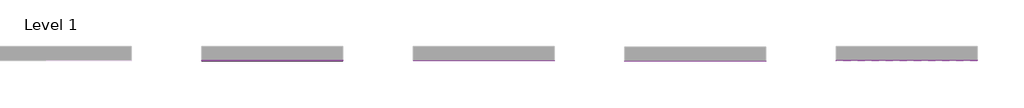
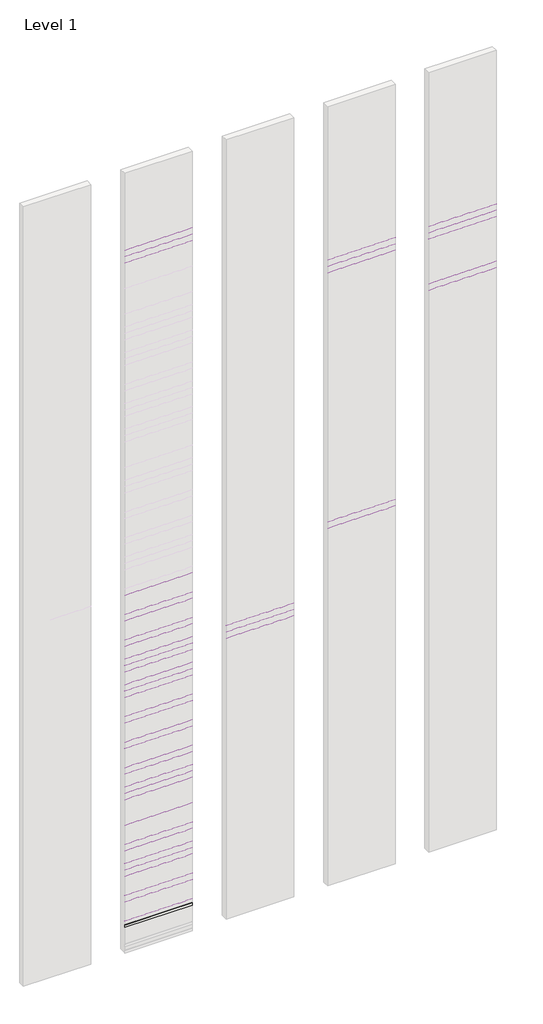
# One storey, part 3 of 3: 46 coverings.
"""IFC4 building model written with IfcOpenShell, lengths in millimetres."""

import ifcopenshell
import ifcopenshell.guid

model = None  # the IFC model being written
_history = None  # IfcOwnerHistory: only IFC2X3 demands one
_inside = {}  # id of a spatial element -> (the spatial element, [elements in it])
_under = {}  # id of a project, library or spatial element -> (it, [spatial elements below it])
_declared = {}  # id of a project -> (the project, [libraries it declares])
_typed = {}  # id of a type object -> (the type object, [elements of that type])
_made_of = {}  # id of a material, layer set ... -> (it, [elements and type objects made of it])


def new_model(schema):
    """Start an empty IFC model of exactly this schema.

    Asked for "IFC4X3", IfcOpenShell would pick the latest addendum, in which some entities
    have other attributes; the version numbers below select the first issue.
    IFC2X3 requires an IfcOwnerHistory on every rooted entity: one is made here for all.
    """
    global model, _history
    if schema == "IFC4X3":
        model = ifcopenshell.file(schema_version=(4, 3, 0, 0))
    else:
        model = ifcopenshell.file(schema=schema)
    _inside.clear()
    _under.clear()
    _declared.clear()
    _typed.clear()
    _made_of.clear()
    _history = None
    if model.schema == "IFC2X3":
        org = make("IfcOrganization", Name="unknown")
        user = make(
            "IfcPersonAndOrganization",
            ThePerson=make("IfcPerson", FamilyName="unknown"),
            TheOrganization=org,
        )
        app = make(
            "IfcApplication",
            ApplicationDeveloper=org,
            Version="unknown",
            ApplicationFullName="unknown",
            ApplicationIdentifier="unknown",
        )
        _history = make(
            "IfcOwnerHistory",
            OwningUser=user,
            OwningApplication=app,
            ChangeAction="ADDED",
            CreationDate=0,
        )
    return model


def make(cls, **values):
    """One entity of the class cls with the attributes given. An attribute that is None is left unset."""
    return model.create_entity(
        cls, **{name: value for name, value in values.items() if value is not None}
    )


def rooted(cls, **values):
    """An entity with a GlobalId (a new one), such as an element, a storey or a relation."""
    return make(cls, GlobalId=ifcopenshell.guid.new(), OwnerHistory=_history, **values)


def si_unit(unit_type, name, prefix=None):
    """IfcSIUnit, for example si_unit("LENGTHUNIT", "METRE", prefix="MILLI")."""
    return make("IfcSIUnit", UnitType=unit_type, Prefix=prefix, Name=name)


def assignment(units):
    """IfcUnitAssignment: the units of a project."""
    return None if units is None else make("IfcUnitAssignment", Units=units)


def point(xyz):
    """IfcCartesianPoint."""
    return None if xyz is None else make("IfcCartesianPoint", Coordinates=xyz)


def direction(xyz):
    """IfcDirection."""
    return None if xyz is None else make("IfcDirection", DirectionRatios=xyz)


def frame(location, z_axis=None, x_axis=None):
    """IfcAxis2Placement3D, a coordinate frame: its origin and axes. An axis left out is left unset."""
    return make(
        "IfcAxis2Placement3D",
        Location=point(location),
        Axis=direction(z_axis),
        RefDirection=direction(x_axis),
    )


def frame_2d(location, x_axis=None):
    """IfcAxis2Placement2D, a coordinate frame in the plane: its origin and x axis."""
    return make(
        "IfcAxis2Placement2D", Location=point(location), RefDirection=direction(x_axis)
    )


def origin():
    """The frame at (0, 0, 0) with its axes left unset."""
    return frame((0.0, 0.0, 0.0))


def place(relative_to, where):
    """IfcLocalPlacement: puts the frame where relative to a parent placement (None: the world)."""
    return make(
        "IfcLocalPlacement", PlacementRelTo=relative_to, RelativePlacement=where
    )


def context(
    kind, dimensions, precision=None, world=None, true_north=None, identifier=None
):
    """IfcGeometricRepresentationContext, for example the 3D "Model" context."""
    return make(
        "IfcGeometricRepresentationContext",
        ContextIdentifier=identifier,
        ContextType=kind,
        CoordinateSpaceDimension=dimensions,
        Precision=precision,
        WorldCoordinateSystem=world,
        TrueNorth=true_north,
    )


def project(units=None, contexts=None):
    """IfcProject with its units and contexts."""
    return rooted(
        "IfcProject",
        Name="project",
        RepresentationContexts=contexts,
        UnitsInContext=assignment(units),
    )


def spatial(cls, under=None, at=None, **own):
    """A site, building, storey or space (cls), placed at a placement, below another one or the project."""
    s = rooted(cls, ObjectPlacement=at, **own)
    if under is not None:
        _under.setdefault(under.id(), (under, []))[1].append(s)
    return s


def polyline(points):
    """IfcPolyline through the points."""
    return make("IfcPolyline", Points=[point(p) for p in points])


def circle_curve(where, radius):
    """IfcCircle in the frame where."""
    return make("IfcCircle", Position=where, Radius=radius)


def trimmed(basis, trim1, trim2, sense, master):
    """IfcTrimmedCurve: the piece of a basis curve between two trims."""
    return make(
        "IfcTrimmedCurve",
        BasisCurve=basis,
        Trim1=trim1,
        Trim2=trim2,
        SenseAgreement=sense,
        MasterRepresentation=master,
    )


def segment(curve, same_sense, transition):
    """IfcCompositeCurveSegment."""
    return make(
        "IfcCompositeCurveSegment",
        Transition=transition,
        SameSense=same_sense,
        ParentCurve=curve,
    )


def composite_curve(segments, self_intersect=None):
    """IfcCompositeCurve: segments joined end to end."""
    return make("IfcCompositeCurve", Segments=segments, SelfIntersect=self_intersect)


def outline(outer, holes=None, kind="AREA"):
    """IfcArbitraryClosedProfileDef: a profile drawn as a closed curve; with holes, ...WithVoids."""
    if holes is None:
        return make("IfcArbitraryClosedProfileDef", ProfileType=kind, OuterCurve=outer)
    return make(
        "IfcArbitraryProfileDefWithVoids",
        ProfileType=kind,
        OuterCurve=outer,
        InnerCurves=holes,
    )


def extrude(swept, where, along, depth):
    """IfcExtrudedAreaSolid: the profile swept, set in the frame where, extruded along a direction by depth."""
    return make(
        "IfcExtrudedAreaSolid",
        SweptArea=swept,
        Position=where,
        ExtrudedDirection=direction(along),
        Depth=depth,
    )


def shape(context_of_items, identifier, shape_type, items):
    """IfcShapeRepresentation: the items that make up one representation, for example the "Body"."""
    return make(
        "IfcShapeRepresentation",
        ContextOfItems=context_of_items,
        RepresentationIdentifier=identifier,
        RepresentationType=shape_type,
        Items=items,
    )


def made_of(thing, what):
    """Note that an element or type object is made of a material, layer set ...; save() writes the relation."""
    if what is not None:
        _made_of.setdefault(what.id(), (what, []))[1].append(thing)
    return thing


def element(
    cls,
    number,
    at=None,
    inside=None,
    cuts=None,
    type_object=None,
    material=None,
    context=None,
    identifier="Body",
    shape_type=None,
    held_by="IfcProductDefinitionShape",
    body=None,
    shapes=None,
    **own,
):
    """One element of the class cls, such as IfcWall. Its Tag is "e" and its number.

    at: its placement. inside: the storey or other place that contains it. cuts: it is an
    opening in that element (IfcRelVoidsElement). A single representation is given by context,
    identifier, shape_type and body (its items); several are given by shapes. held_by: the class
    of the entity that holds the representations. save() writes the other relations.
    """
    e = rooted(cls, Tag="e%d" % number, ObjectPlacement=at, **own)
    if body is not None:
        shapes = [shape(context, identifier, shape_type, body)]
    if shapes is not None:
        e.Representation = make(held_by, Representations=shapes)
    if inside is not None:
        _inside.setdefault(inside.id(), (inside, []))[1].append(e)
    if cuts is not None:
        rooted(
            "IfcRelVoidsElement", RelatingBuildingElement=cuts, RelatedOpeningElement=e
        )
    if type_object is not None:
        _typed.setdefault(type_object.id(), (type_object, []))[1].append(e)
    return made_of(e, material)


def aggregate(whole, parts):
    """IfcRelAggregates: a whole, such as a stair, and the parts it consists of."""
    return rooted("IfcRelAggregates", RelatingObject=whole, RelatedObjects=parts)


def save(model, path):
    """Write the relations noted so far, then the file.

    IfcRelAggregates (storeys below a building ...), IfcRelContainedInSpatialStructure (elements
    in a storey), IfcRelDefinesByType, IfcRelAssociatesMaterial and IfcRelDeclares: one each for
    every whole, place, type object, material and project.
    """
    for whole, parts in _under.values():
        aggregate(whole, parts)
    for where, things in _inside.values():
        rooted(
            "IfcRelContainedInSpatialStructure",
            RelatedElements=things,
            RelatingStructure=where,
        )
    for kind, things in _typed.values():
        rooted("IfcRelDefinesByType", RelatedObjects=things, RelatingType=kind)
    for what, things in _made_of.values():
        rooted("IfcRelAssociatesMaterial", RelatedObjects=things, RelatingMaterial=what)
    for by, libraries in _declared.values():
        rooted("IfcRelDeclares", RelatingContext=by, RelatedDefinitions=libraries)
    model.write(path)


model = new_model("IFC4")

# Units and contexts
model_context = context("Model", 3, world=origin())
ifc_project = project(units=[si_unit("LENGTHUNIT", "METRE", prefix="MILLI")], contexts=[model_context])

# Site, building, storey
site = spatial("IfcSite", under=ifc_project)
building = spatial("IfcBuilding", under=site)
storey = spatial("IfcBuildingStorey", under=building, Name="Level 1", Elevation=0.0)

# Coverings
placement = place(None, origin())
element("IfcCovering", 1, ObjectType="REVIGRÉS-CROMATICA-RB-8x59.2-POL-cromatica_jet", at=placement, inside=storey, context=model_context, shape_type="SweptSolid", body=[
    extrude(outline(composite_curve([segment(polyline([(9521.7775805, 11200.0), (9513.7775805, 11200.0), (9513.7775805, 11272.0)]), True, "CONTINUOUS"), segment(trimmed(circle_curve(frame_2d((9521.7775805, 11272.0)), 8.0), [point((9513.7775805, 11272.0))], [point((9521.7775805, 11280.0))], False, "CARTESIAN"), True, "CONTINUOUS"), segment(polyline([(9521.7775805, 11280.0), (9521.7775805, 11200.0)]), True, "CONTINUOUS")], self_intersect=False)), frame((-21127.1860756, 0.0, 0.0), z_axis=(1.0, 0.0, 0.0), x_axis=(0.0, 1.0, 0.0)), (0.0, 0.0, 1.0), 2000.0),
])
element("IfcCovering", 2, ObjectType="REVIGRÉS-CROMATICA-RB-8x59.2-POL-cromatica_indigo", at=placement, inside=storey, context=model_context, shape_type="SweptSolid", body=[
    extrude(outline(composite_curve([segment(polyline([(9521.7775805, 9600.0), (9513.7775805, 9600.0), (9513.7775805, 9672.0)]), True, "CONTINUOUS"), segment(trimmed(circle_curve(frame_2d((9521.7775805, 9672.0)), 8.0), [point((9513.7775805, 9672.0))], [point((9521.7775805, 9680.0))], False, "CARTESIAN"), True, "CONTINUOUS"), segment(polyline([(9521.7775805, 9680.0), (9521.7775805, 9600.0)]), True, "CONTINUOUS")], self_intersect=False)), frame((-21127.1860756, 0.0, 0.0), z_axis=(1.0, 0.0, 0.0), x_axis=(0.0, 1.0, 0.0)), (0.0, 0.0, 1.0), 2000.0),
])
element("IfcCovering", 3, ObjectType="REVIGRÉS-CROMATICA-RB-8x59.2-SOFT-cromatica_indigo", at=placement, inside=storey, context=model_context, shape_type="SweptSolid", body=[
    extrude(outline(composite_curve([segment(polyline([(9521.7775805, 9800.0), (9513.2775805, 9800.0), (9513.2775805, 9871.5)]), True, "CONTINUOUS"), segment(trimmed(circle_curve(frame_2d((9521.7775805, 9871.5)), 8.5), [point((9513.2775805, 9871.5))], [point((9521.7775805, 9880.0))], False, "CARTESIAN"), True, "CONTINUOUS"), segment(polyline([(9521.7775805, 9880.0), (9521.7775805, 9800.0)]), True, "CONTINUOUS")], self_intersect=False)), frame((-21127.1860756, 0.0, 0.0), z_axis=(1.0, 0.0, 0.0), x_axis=(0.0, 1.0, 0.0)), (0.0, 0.0, 1.0), 2000.0),
])
element("IfcCovering", 4, ObjectType="REVIGRÉS-CROMATICA-RB-8x59.2-SOFT-cromatica_jade", at=placement, inside=storey, context=model_context, shape_type="SweptSolid", body=[
    extrude(outline(composite_curve([segment(polyline([(9521.7775805, 10400.0), (9513.2775805, 10400.0), (9513.2775805, 10471.5)]), True, "CONTINUOUS"), segment(trimmed(circle_curve(frame_2d((9521.7775805, 10471.5)), 8.5), [point((9513.2775805, 10471.5))], [point((9521.7775805, 10480.0))], False, "CARTESIAN"), True, "CONTINUOUS"), segment(polyline([(9521.7775805, 10480.0), (9521.7775805, 10400.0)]), True, "CONTINUOUS")], self_intersect=False)), frame((-21127.1860756, 0.0, 0.0), z_axis=(1.0, 0.0, 0.0), x_axis=(0.0, 1.0, 0.0)), (0.0, 0.0, 1.0), 2000.0),
])
element("IfcCovering", 5, ObjectType="REVIGRÉS-CROMATICA-RB-8x59.2-SOFT-cromatica_jade", at=placement, inside=storey, context=model_context, shape_type="SweptSolid", body=[
    extrude(outline(composite_curve([segment(polyline([(9521.7775805, 10600.0), (9513.2775805, 10600.0), (9513.2775805, 10671.5)]), True, "CONTINUOUS"), segment(trimmed(circle_curve(frame_2d((9521.7775805, 10671.5)), 8.5), [point((9513.2775805, 10671.5))], [point((9521.7775805, 10680.0))], False, "CARTESIAN"), True, "CONTINUOUS"), segment(polyline([(9521.7775805, 10680.0), (9521.7775805, 10600.0)]), True, "CONTINUOUS")], self_intersect=False)), frame((-21127.1860756, 0.0, 0.0), z_axis=(1.0, 0.0, 0.0), x_axis=(0.0, 1.0, 0.0)), (0.0, 0.0, 1.0), 2000.0),
])
element("IfcCovering", 6, ObjectType="REVIGRÉS-CROMATICA-RB-8x59.2-POL-cromatica_ice", at=placement, inside=storey, context=model_context, shape_type="SweptSolid", body=[
    extrude(outline(composite_curve([segment(polyline([(9521.7775805, 9000.0), (9513.7775805, 9000.0), (9513.7775805, 9072.0)]), True, "CONTINUOUS"), segment(trimmed(circle_curve(frame_2d((9521.7775805, 9072.0)), 8.0), [point((9513.7775805, 9072.0))], [point((9521.7775805, 9080.0))], False, "CARTESIAN"), True, "CONTINUOUS"), segment(polyline([(9521.7775805, 9080.0), (9521.7775805, 9000.0)]), True, "CONTINUOUS")], self_intersect=False)), frame((-21127.1860756, 0.0, 0.0), z_axis=(1.0, 0.0, 0.0), x_axis=(0.0, 1.0, 0.0)), (0.0, 0.0, 1.0), 2000.0),
])
element("IfcCovering", 7, ObjectType="REVIGRÉS-CROMATICA-RB-8x59.2-MATTRECT-cromatica_ice", at=placement, inside=storey, context=model_context, shape_type="SweptSolid", body=[
    extrude(outline(composite_curve([segment(polyline([(9521.7775805, 8800.0), (9513.2775805, 8800.0), (9513.2775805, 8871.5)]), True, "CONTINUOUS"), segment(trimmed(circle_curve(frame_2d((9521.7775805, 8871.5)), 8.5), [point((9513.2775805, 8871.5))], [point((9521.7775805, 8880.0))], False, "CARTESIAN"), True, "CONTINUOUS"), segment(polyline([(9521.7775805, 8880.0), (9521.7775805, 8800.0)]), True, "CONTINUOUS")], self_intersect=False)), frame((-21127.1860756, 0.0, 0.0), z_axis=(1.0, 0.0, 0.0), x_axis=(0.0, 1.0, 0.0)), (0.0, 0.0, 1.0), 2000.0),
])
element("IfcCovering", 8, ObjectType="REVIGRÉS-CROMATICA-RB-8x59.2-SOFT-cromatica_ice", at=placement, inside=storey, context=model_context, shape_type="SweptSolid", body=[
    extrude(outline(composite_curve([segment(polyline([(9521.7775805, 9200.0), (9513.2775805, 9200.0), (9513.2775805, 9271.5)]), True, "CONTINUOUS"), segment(trimmed(circle_curve(frame_2d((9521.7775805, 9271.5)), 8.5), [point((9513.2775805, 9271.5))], [point((9521.7775805, 9280.0))], False, "CARTESIAN"), True, "CONTINUOUS"), segment(polyline([(9521.7775805, 9280.0), (9521.7775805, 9200.0)]), True, "CONTINUOUS")], self_intersect=False)), frame((-21127.1860756, 0.0, 0.0), z_axis=(1.0, 0.0, 0.0), x_axis=(0.0, 1.0, 0.0)), (0.0, 0.0, 1.0), 2000.0),
])
element("IfcCovering", 9, ObjectType="REVIGRÉS-CROMATICA-RB-8x59.2-MATTRECT-cromatica_grafite", at=placement, inside=storey, context=model_context, shape_type="SweptSolid", body=[
    extrude(outline(composite_curve([segment(polyline([(9521.7775805, 8000.0), (9513.2775805, 8000.0), (9513.2775805, 8071.5)]), True, "CONTINUOUS"), segment(trimmed(circle_curve(frame_2d((9521.7775805, 8071.5)), 8.5), [point((9513.2775805, 8071.5))], [point((9521.7775805, 8080.0))], False, "CARTESIAN"), True, "CONTINUOUS"), segment(polyline([(9521.7775805, 8080.0), (9521.7775805, 8000.0)]), True, "CONTINUOUS")], self_intersect=False)), frame((-21127.1860756, 0.0, 0.0), z_axis=(1.0, 0.0, 0.0), x_axis=(0.0, 1.0, 0.0)), (0.0, 0.0, 1.0), 2000.0),
])
element("IfcCovering", 10, ObjectType="REVIGRÉS-CROMATICA-RB-8x59.2-POL-cromatica_grafite", at=placement, inside=storey, context=model_context, shape_type="SweptSolid", body=[
    extrude(outline(composite_curve([segment(polyline([(9521.7775805, 8200.0), (9513.7775805, 8200.0), (9513.7775805, 8272.0)]), True, "CONTINUOUS"), segment(trimmed(circle_curve(frame_2d((9521.7775805, 8272.0)), 8.0), [point((9513.7775805, 8272.0))], [point((9521.7775805, 8280.0))], False, "CARTESIAN"), True, "CONTINUOUS"), segment(polyline([(9521.7775805, 8280.0), (9521.7775805, 8200.0)]), True, "CONTINUOUS")], self_intersect=False)), frame((-21127.1860756, 0.0, 0.0), z_axis=(1.0, 0.0, 0.0), x_axis=(0.0, 1.0, 0.0)), (0.0, 0.0, 1.0), 2000.0),
])
element("IfcCovering", 11, ObjectType="REVIGRÉS-CROMATICA-RB-8x59.2-SOFT-cromatica_grafite", at=placement, inside=storey, context=model_context, shape_type="SweptSolid", body=[
    extrude(outline(composite_curve([segment(polyline([(9521.7775805, 8400.0), (9513.2775805, 8400.0), (9513.2775805, 8471.5)]), True, "CONTINUOUS"), segment(trimmed(circle_curve(frame_2d((9521.7775805, 8471.5)), 8.5), [point((9513.2775805, 8471.5))], [point((9521.7775805, 8480.0))], False, "CARTESIAN"), True, "CONTINUOUS"), segment(polyline([(9521.7775805, 8480.0), (9521.7775805, 8400.0)]), True, "CONTINUOUS")], self_intersect=False)), frame((-21127.1860756, 0.0, 0.0), z_axis=(1.0, 0.0, 0.0), x_axis=(0.0, 1.0, 0.0)), (0.0, 0.0, 1.0), 2000.0),
])
element("IfcCovering", 12, ObjectType="REVIGRÉS-CROMATICA-RB-8x59.2-MATTRECT-cromatica_coral", at=placement, inside=storey, context=model_context, shape_type="SweptSolid", body=[
    extrude(outline(composite_curve([segment(polyline([(9521.7775805, 7200.0), (9513.2775805, 7200.0), (9513.2775805, 7271.5)]), True, "CONTINUOUS"), segment(trimmed(circle_curve(frame_2d((9521.7775805, 7271.5)), 8.5), [point((9513.2775805, 7271.5))], [point((9521.7775805, 7280.0))], False, "CARTESIAN"), True, "CONTINUOUS"), segment(polyline([(9521.7775805, 7280.0), (9521.7775805, 7200.0)]), True, "CONTINUOUS")], self_intersect=False)), frame((-21127.1860756, 0.0, 0.0), z_axis=(1.0, 0.0, 0.0), x_axis=(0.0, 1.0, 0.0)), (0.0, 0.0, 1.0), 2000.0),
])
element("IfcCovering", 13, ObjectType="REVIGRÉS-CROMATICA-RB-8x59.2-POL-cromatica_coral", at=placement, inside=storey, context=model_context, shape_type="SweptSolid", body=[
    extrude(outline(composite_curve([segment(polyline([(9521.7775805, 7400.0), (9513.7775805, 7400.0), (9513.7775805, 7472.0)]), True, "CONTINUOUS"), segment(trimmed(circle_curve(frame_2d((9521.7775805, 7472.0)), 8.0), [point((9513.7775805, 7472.0))], [point((9521.7775805, 7480.0))], False, "CARTESIAN"), True, "CONTINUOUS"), segment(polyline([(9521.7775805, 7480.0), (9521.7775805, 7400.0)]), True, "CONTINUOUS")], self_intersect=False)), frame((-21127.1860756, 0.0, 0.0), z_axis=(1.0, 0.0, 0.0), x_axis=(0.0, 1.0, 0.0)), (0.0, 0.0, 1.0), 2000.0),
])
element("IfcCovering", 14, ObjectType="REVIGRÉS-CROMATICA-RB-8x59.2-MATTRECT-cromatica_cobalto", at=placement, inside=storey, context=model_context, shape_type="SweptSolid", body=[
    extrude(outline(composite_curve([segment(polyline([(9521.7775805, 6400.0), (9513.2775805, 6400.0), (9513.2775805, 6471.5)]), True, "CONTINUOUS"), segment(trimmed(circle_curve(frame_2d((9521.7775805, 6471.5)), 8.5), [point((9513.2775805, 6471.5))], [point((9521.7775805, 6480.0))], False, "CARTESIAN"), True, "CONTINUOUS"), segment(polyline([(9521.7775805, 6480.0), (9521.7775805, 6400.0)]), True, "CONTINUOUS")], self_intersect=False)), frame((-21127.1860756, 0.0, 0.0), z_axis=(1.0, 0.0, 0.0), x_axis=(0.0, 1.0, 0.0)), (0.0, 0.0, 1.0), 2000.0),
])
element("IfcCovering", 15, ObjectType="REVIGRÉS-CROMATICA-RB-8x59.2-SOFT-cromatica_cobalto", at=placement, inside=storey, context=model_context, shape_type="SweptSolid", body=[
    extrude(outline(composite_curve([segment(polyline([(9521.7775805, 6600.0), (9513.2775805, 6600.0), (9513.2775805, 6671.5)]), True, "CONTINUOUS"), segment(trimmed(circle_curve(frame_2d((9521.7775805, 6671.5)), 8.5), [point((9513.2775805, 6671.5))], [point((9521.7775805, 6680.0))], False, "CARTESIAN"), True, "CONTINUOUS"), segment(polyline([(9521.7775805, 6680.0), (9521.7775805, 6600.0)]), True, "CONTINUOUS")], self_intersect=False)), frame((-21127.1860756, 0.0, 0.0), z_axis=(1.0, 0.0, 0.0), x_axis=(0.0, 1.0, 0.0)), (0.0, 0.0, 1.0), 2000.0),
])
element("IfcCovering", 16, ObjectType="REVIGRÉS-CROMATICA-RB-8x59.2-MATTRECT-cromatica_brick", at=placement, inside=storey, context=model_context, shape_type="SweptSolid", body=[
    extrude(outline(composite_curve([segment(polyline([(9521.7775805, 5600.0), (9513.2775805, 5600.0), (9513.2775805, 5671.5)]), True, "CONTINUOUS"), segment(trimmed(circle_curve(frame_2d((9521.7775805, 5671.5)), 8.5), [point((9513.2775805, 5671.5))], [point((9521.7775805, 5680.0))], False, "CARTESIAN"), True, "CONTINUOUS"), segment(polyline([(9521.7775805, 5680.0), (9521.7775805, 5600.0)]), True, "CONTINUOUS")], self_intersect=False)), frame((-21127.1860756, 0.0, 0.0), z_axis=(1.0, 0.0, 0.0), x_axis=(0.0, 1.0, 0.0)), (0.0, 0.0, 1.0), 2000.0),
])
element("IfcCovering", 17, ObjectType="REVIGRÉS-CROMATICA-RB-8x59.2-POL-cromatica_brick", at=placement, inside=storey, context=model_context, shape_type="SweptSolid", body=[
    extrude(outline(composite_curve([segment(polyline([(9521.7775805, 5800.0), (9513.7775805, 5800.0), (9513.7775805, 5872.0)]), True, "CONTINUOUS"), segment(trimmed(circle_curve(frame_2d((9521.7775805, 5872.0)), 8.0), [point((9513.7775805, 5872.0))], [point((9521.7775805, 5880.0))], False, "CARTESIAN"), True, "CONTINUOUS"), segment(polyline([(9521.7775805, 5880.0), (9521.7775805, 5800.0)]), True, "CONTINUOUS")], self_intersect=False)), frame((-21127.1860756, 0.0, 0.0), z_axis=(1.0, 0.0, 0.0), x_axis=(0.0, 1.0, 0.0)), (0.0, 0.0, 1.0), 2000.0),
])
element("IfcCovering", 18, ObjectType="REVIGRÉS-CROMATICA-RB-8x59.2-MATTRECT-cromatica_bone", at=placement, inside=storey, context=model_context, shape_type="SweptSolid", body=[
    extrude(outline(composite_curve([segment(polyline([(9521.7775805, 4800.0), (9513.2775805, 4800.0), (9513.2775805, 4871.5)]), True, "CONTINUOUS"), segment(trimmed(circle_curve(frame_2d((9521.7775805, 4871.5)), 8.5), [point((9513.2775805, 4871.5))], [point((9521.7775805, 4880.0))], False, "CARTESIAN"), True, "CONTINUOUS"), segment(polyline([(9521.7775805, 4880.0), (9521.7775805, 4800.0)]), True, "CONTINUOUS")], self_intersect=False)), frame((-21127.1860756, 0.0, 0.0), z_axis=(1.0, 0.0, 0.0), x_axis=(0.0, 1.0, 0.0)), (0.0, 0.0, 1.0), 2000.0),
])
element("IfcCovering", 19, ObjectType="REVIGRÉS-CROMATICA-RB-8x59.2-POL-cromatica_bone", at=placement, inside=storey, context=model_context, shape_type="SweptSolid", body=[
    extrude(outline(composite_curve([segment(polyline([(9521.7775805, 5000.0), (9513.7775805, 5000.0), (9513.7775805, 5072.0)]), True, "CONTINUOUS"), segment(trimmed(circle_curve(frame_2d((9521.7775805, 5072.0)), 8.0), [point((9513.7775805, 5072.0))], [point((9521.7775805, 5080.0))], False, "CARTESIAN"), True, "CONTINUOUS"), segment(polyline([(9521.7775805, 5080.0), (9521.7775805, 5000.0)]), True, "CONTINUOUS")], self_intersect=False)), frame((-21127.1860756, 0.0, 0.0), z_axis=(1.0, 0.0, 0.0), x_axis=(0.0, 1.0, 0.0)), (0.0, 0.0, 1.0), 2000.0),
])
element("IfcCovering", 20, ObjectType="REVIGRÉS-CROMATICA-RB-8x59.2-SOFT-cromatica_bone", at=placement, inside=storey, context=model_context, shape_type="SweptSolid", body=[
    extrude(outline(composite_curve([segment(polyline([(9521.7775805, 5200.0), (9513.2775805, 5200.0), (9513.2775805, 5271.5)]), True, "CONTINUOUS"), segment(trimmed(circle_curve(frame_2d((9521.7775805, 5271.5)), 8.5), [point((9513.2775805, 5271.5))], [point((9521.7775805, 5280.0))], False, "CARTESIAN"), True, "CONTINUOUS"), segment(polyline([(9521.7775805, 5280.0), (9521.7775805, 5200.0)]), True, "CONTINUOUS")], self_intersect=False)), frame((-21127.1860756, 0.0, 0.0), z_axis=(1.0, 0.0, 0.0), x_axis=(0.0, 1.0, 0.0)), (0.0, 0.0, 1.0), 2000.0),
])
element("IfcCovering", 21, ObjectType="REVIGRÉS-CROMATICA-RB-8x59.2-MATTRECT-cromatica_bege", at=placement, inside=storey, context=model_context, shape_type="SweptSolid", body=[
    extrude(outline(composite_curve([segment(polyline([(9521.7775805, 4000.0), (9513.2775805, 4000.0), (9513.2775805, 4071.5)]), True, "CONTINUOUS"), segment(trimmed(circle_curve(frame_2d((9521.7775805, 4071.5)), 8.5), [point((9513.2775805, 4071.5))], [point((9521.7775805, 4080.0))], False, "CARTESIAN"), True, "CONTINUOUS"), segment(polyline([(9521.7775805, 4080.0), (9521.7775805, 4000.0)]), True, "CONTINUOUS")], self_intersect=False)), frame((-21127.1860756, 0.0, 0.0), z_axis=(1.0, 0.0, 0.0), x_axis=(0.0, 1.0, 0.0)), (0.0, 0.0, 1.0), 2000.0),
])
element("IfcCovering", 22, ObjectType="REVIGRÉS-CROMATICA-RB-8x59.2-POL-cromatica_astral", at=placement, inside=storey, context=model_context, shape_type="SweptSolid", body=[
    extrude(outline(composite_curve([segment(polyline([(9521.7775805, 3200.0), (9513.7775805, 3200.0), (9513.7775805, 3272.0)]), True, "CONTINUOUS"), segment(trimmed(circle_curve(frame_2d((9521.7775805, 3272.0)), 8.0), [point((9513.7775805, 3272.0))], [point((9521.7775805, 3280.0))], False, "CARTESIAN"), True, "CONTINUOUS"), segment(polyline([(9521.7775805, 3280.0), (9521.7775805, 3200.0)]), True, "CONTINUOUS")], self_intersect=False)), frame((-21127.1860756, 0.0, 0.0), z_axis=(1.0, 0.0, 0.0), x_axis=(0.0, 1.0, 0.0)), (0.0, 0.0, 1.0), 2000.0),
])
element("IfcCovering", 23, ObjectType="REVIGRÉS-CROMATICA-RB-8x59.2-SOFT-cromatica_astral", at=placement, inside=storey, context=model_context, shape_type="SweptSolid", body=[
    extrude(outline(composite_curve([segment(polyline([(9521.7775805, 3400.0), (9513.7775805, 3400.0), (9513.7775805, 3472.0)]), True, "CONTINUOUS"), segment(trimmed(circle_curve(frame_2d((9521.7775805, 3472.0)), 8.0), [point((9513.7775805, 3472.0))], [point((9521.7775805, 3480.0))], False, "CARTESIAN"), True, "CONTINUOUS"), segment(polyline([(9521.7775805, 3480.0), (9521.7775805, 3400.0)]), True, "CONTINUOUS")], self_intersect=False)), frame((-21127.1860756, 0.0, 0.0), z_axis=(1.0, 0.0, 0.0), x_axis=(0.0, 1.0, 0.0)), (0.0, 0.0, 1.0), 2000.0),
])
element("IfcCovering", 24, ObjectType="REVIGRÉS-CROMATICA-RB-8x59.2-MATTRECT-cromatica_argprata", at=placement, inside=storey, context=model_context, shape_type="SweptSolid", body=[
    extrude(outline(composite_curve([segment(polyline([(9521.7775805, 2400.0), (9513.2775805, 2400.0), (9513.2775805, 2471.5)]), True, "CONTINUOUS"), segment(trimmed(circle_curve(frame_2d((9521.7775805, 2471.5)), 8.5), [point((9513.2775805, 2471.5))], [point((9521.7775805, 2480.0))], False, "CARTESIAN"), True, "CONTINUOUS"), segment(polyline([(9521.7775805, 2480.0), (9521.7775805, 2400.0)]), True, "CONTINUOUS")], self_intersect=False)), frame((-21127.1860756, 0.0, 0.0), z_axis=(1.0, 0.0, 0.0), x_axis=(0.0, 1.0, 0.0)), (0.0, 0.0, 1.0), 2000.0),
])
element("IfcCovering", 25, ObjectType="REVIGRÉS-CROMATICA-RB-8x59.2-POL-cromatica_argprata", at=placement, inside=storey, context=model_context, shape_type="SweptSolid", body=[
    extrude(outline(composite_curve([segment(polyline([(9521.7775805, 2600.0), (9513.7775805, 2600.0), (9513.7775805, 2672.0)]), True, "CONTINUOUS"), segment(trimmed(circle_curve(frame_2d((9521.7775805, 2672.0)), 8.0), [point((9513.7775805, 2672.0))], [point((9521.7775805, 2680.0))], False, "CARTESIAN"), True, "CONTINUOUS"), segment(polyline([(9521.7775805, 2680.0), (9521.7775805, 2600.0)]), True, "CONTINUOUS")], self_intersect=False)), frame((-21127.1860756, 0.0, 0.0), z_axis=(1.0, 0.0, 0.0), x_axis=(0.0, 1.0, 0.0)), (0.0, 0.0, 1.0), 2000.0),
])
element("IfcCovering", 26, ObjectType="REVIGRÉS-CROMATICA-RB-8x59.2-SOFT-cromatica_argprata", at=placement, inside=storey, context=model_context, shape_type="SweptSolid", body=[
    extrude(outline(composite_curve([segment(polyline([(9521.7775805, 2800.0), (9513.2775805, 2800.0), (9513.2775805, 2871.5)]), True, "CONTINUOUS"), segment(trimmed(circle_curve(frame_2d((9521.7775805, 2871.5)), 8.5), [point((9513.2775805, 2871.5))], [point((9521.7775805, 2880.0))], False, "CARTESIAN"), True, "CONTINUOUS"), segment(polyline([(9521.7775805, 2880.0), (9521.7775805, 2800.0)]), True, "CONTINUOUS")], self_intersect=False)), frame((-21127.1860756, 0.0, 0.0), z_axis=(1.0, 0.0, 0.0), x_axis=(0.0, 1.0, 0.0)), (0.0, 0.0, 1.0), 2000.0),
])
element("IfcCovering", 27, ObjectType="REVIGRÉS-CROMATICA-RB-8x59.2-POL-cromatica_antracite", at=placement, inside=storey, context=model_context, shape_type="SweptSolid", body=[
    extrude(outline(composite_curve([segment(polyline([(9521.7775805, 1600.0), (9513.7775805, 1600.0), (9513.7775805, 1672.0)]), True, "CONTINUOUS"), segment(trimmed(circle_curve(frame_2d((9521.7775805, 1672.0)), 8.0), [point((9513.7775805, 1672.0))], [point((9521.7775805, 1680.0))], False, "CARTESIAN"), True, "CONTINUOUS"), segment(polyline([(9521.7775805, 1680.0), (9521.7775805, 1600.0)]), True, "CONTINUOUS")], self_intersect=False)), frame((-21127.1860756, 0.0, 0.0), z_axis=(1.0, 0.0, 0.0), x_axis=(0.0, 1.0, 0.0)), (0.0, 0.0, 1.0), 2000.0),
])
element("IfcCovering", 28, ObjectType="REVIGRÉS-CROMATICA-RB-8x59.2-SOFT-cromatica_antracite", at=placement, inside=storey, context=model_context, shape_type="SweptSolid", body=[
    extrude(outline(composite_curve([segment(polyline([(9521.7775805, 1800.0), (9513.2775805, 1800.0), (9513.2775805, 1871.5)]), True, "CONTINUOUS"), segment(trimmed(circle_curve(frame_2d((9521.7775805, 1871.5)), 8.5), [point((9513.2775805, 1871.5))], [point((9521.7775805, 1880.0))], False, "CARTESIAN"), True, "CONTINUOUS"), segment(polyline([(9521.7775805, 1880.0), (9521.7775805, 1800.0)]), True, "CONTINUOUS")], self_intersect=False)), frame((-21127.1860756, 0.0, 0.0), z_axis=(1.0, 0.0, 0.0), x_axis=(0.0, 1.0, 0.0)), (0.0, 0.0, 1.0), 2000.0),
])
element("IfcCovering", 29, ObjectType="REVIGRÉS-CROMATICA-RB-8x59.2-MATTRECT-cromatica_anis", at=placement, inside=storey, context=model_context, shape_type="SweptSolid", body=[
    extrude(outline(composite_curve([segment(polyline([(9521.7775805, 800.0), (9513.2775805, 800.0), (9513.2775805, 871.5)]), True, "CONTINUOUS"), segment(trimmed(circle_curve(frame_2d((9521.7775805, 871.5)), 8.5), [point((9513.2775805, 871.5))], [point((9521.7775805, 880.0))], False, "CARTESIAN"), True, "CONTINUOUS"), segment(polyline([(9521.7775805, 880.0), (9521.7775805, 800.0)]), True, "CONTINUOUS")], self_intersect=False)), frame((-21127.1860756, 0.0, 0.0), z_axis=(1.0, 0.0, 0.0), x_axis=(0.0, 1.0, 0.0)), (0.0, 0.0, 1.0), 2000.0),
])
element("IfcCovering", 30, ObjectType="REVIGRÉS-CROMATICA-RB-8x59.2-SOFT-cromatica_anis", at=placement, inside=storey, context=model_context, shape_type="SweptSolid", body=[
    extrude(outline(composite_curve([segment(polyline([(9521.7775805, 1000.0), (9513.2775805, 1000.0), (9513.2775805, 1071.5)]), True, "CONTINUOUS"), segment(trimmed(circle_curve(frame_2d((9521.7775805, 1071.5)), 8.5), [point((9513.2775805, 1071.5))], [point((9521.7775805, 1080.0))], False, "CARTESIAN"), True, "CONTINUOUS"), segment(polyline([(9521.7775805, 1080.0), (9521.7775805, 1000.0)]), True, "CONTINUOUS")], self_intersect=False)), frame((-21127.1860756, 0.0, 0.0), z_axis=(1.0, 0.0, 0.0), x_axis=(0.0, 1.0, 0.0)), (0.0, 0.0, 1.0), 2000.0),
])
element("IfcCovering", 31, ObjectType="REVIGRÉS-CROMATICA-RB-8x59.2-MATTRECT-cromatica_titanium", at=placement, inside=storey, context=model_context, shape_type="SweptSolid", body=[
    extrude(outline(composite_curve([segment(polyline([(9521.7775805, 21600.0), (9513.2775805, 21600.0), (9513.2775805, 21671.5)]), True, "CONTINUOUS"), segment(trimmed(circle_curve(frame_2d((9521.7775805, 21671.5)), 8.5), [point((9513.2775805, 21671.5))], [point((9521.7775805, 21680.0))], False, "CARTESIAN"), True, "CONTINUOUS"), segment(polyline([(9521.7775805, 21680.0), (9521.7775805, 21600.0)]), True, "CONTINUOUS")], self_intersect=False)), frame((-21127.1860756, 0.0, 0.0), z_axis=(1.0, 0.0, 0.0), x_axis=(0.0, 1.0, 0.0)), (0.0, 0.0, 1.0), 2000.0),
])
element("IfcCovering", 32, ObjectType="REVIGRÉS-CROMATICA-RB-8x59.2-POL-cromatica_titanium", at=placement, inside=storey, context=model_context, shape_type="SweptSolid", body=[
    extrude(outline(composite_curve([segment(polyline([(9521.7775805, 21800.0), (9513.7775805, 21800.0), (9513.7775805, 21872.0)]), True, "CONTINUOUS"), segment(trimmed(circle_curve(frame_2d((9521.7775805, 21872.0)), 8.0), [point((9513.7775805, 21872.0))], [point((9521.7775805, 21880.0))], False, "CARTESIAN"), True, "CONTINUOUS"), segment(polyline([(9521.7775805, 21880.0), (9521.7775805, 21800.0)]), True, "CONTINUOUS")], self_intersect=False)), frame((-21127.1860756, 0.0, 0.0), z_axis=(1.0, 0.0, 0.0), x_axis=(0.0, 1.0, 0.0)), (0.0, 0.0, 1.0), 2000.0),
])
element("IfcCovering", 33, ObjectType="REVIGRÉS-CROMATICA-RB-8x59.2-SOFT-cromatica_titanium", at=placement, inside=storey, context=model_context, shape_type="SweptSolid", body=[
    extrude(outline(composite_curve([segment(polyline([(9521.7775805, 22000.0), (9513.2775805, 22000.0), (9513.2775805, 22071.5)]), True, "CONTINUOUS"), segment(trimmed(circle_curve(frame_2d((9521.7775805, 22071.5)), 8.5), [point((9513.2775805, 22071.5))], [point((9521.7775805, 22080.0))], False, "CARTESIAN"), True, "CONTINUOUS"), segment(polyline([(9521.7775805, 22080.0), (9521.7775805, 22000.0)]), True, "CONTINUOUS")], self_intersect=False)), frame((-21127.1860756, 0.0, 0.0), z_axis=(1.0, 0.0, 0.0), x_axis=(0.0, 1.0, 0.0)), (0.0, 0.0, 1.0), 2000.0),
])
element("IfcCovering", 34, ObjectType="REVIGRÉS-CROMATICA-RB-8x87-MATTRECT-cromatica_ice", at=placement, inside=storey, context=model_context, shape_type="SweptSolid", body=[
    extrude(outline(composite_curve([segment(polyline([(9521.7775805, 8800.0), (9513.2775805, 8800.0), (9513.2775805, 8871.5)]), True, "CONTINUOUS"), segment(trimmed(circle_curve(frame_2d((9521.7775805, 8871.5)), 8.5), [point((9513.2775805, 8871.5))], [point((9521.7775805, 8880.0))], False, "CARTESIAN"), True, "CONTINUOUS"), segment(polyline([(9521.7775805, 8880.0), (9521.7775805, 8800.0)]), True, "CONTINUOUS")], self_intersect=False)), frame((-18127.1860756, 0.0, 0.0), z_axis=(1.0, 0.0, 0.0), x_axis=(0.0, 1.0, 0.0)), (0.0, 0.0, 1.0), 2000.0),
])
element("IfcCovering", 35, ObjectType="REVIGRÉS-CROMATICA-RB-8x87-POL-cromatica_ice", at=placement, inside=storey, context=model_context, shape_type="SweptSolid", body=[
    extrude(outline(composite_curve([segment(polyline([(9521.7775805, 9000.0), (9513.7775805, 9000.0), (9513.7775805, 9072.0)]), True, "CONTINUOUS"), segment(trimmed(circle_curve(frame_2d((9521.7775805, 9072.0)), 8.0), [point((9513.7775805, 9072.0))], [point((9521.7775805, 9080.0))], False, "CARTESIAN"), True, "CONTINUOUS"), segment(polyline([(9521.7775805, 9080.0), (9521.7775805, 9000.0)]), True, "CONTINUOUS")], self_intersect=False)), frame((-18127.1860756, 0.0, 0.0), z_axis=(1.0, 0.0, 0.0), x_axis=(0.0, 1.0, 0.0)), (0.0, 0.0, 1.0), 2000.0),
])
element("IfcCovering", 36, ObjectType="REVIGRÉS-CROMATICA-RB-8x87-SOFT-cromatica_ice", at=placement, inside=storey, context=model_context, shape_type="SweptSolid", body=[
    extrude(outline(composite_curve([segment(polyline([(9521.7775805, 9200.0), (9513.2775805, 9200.0), (9513.2775805, 9271.5)]), True, "CONTINUOUS"), segment(trimmed(circle_curve(frame_2d((9521.7775805, 9271.5)), 8.5), [point((9513.2775805, 9271.5))], [point((9521.7775805, 9280.0))], False, "CARTESIAN"), True, "CONTINUOUS"), segment(polyline([(9521.7775805, 9280.0), (9521.7775805, 9200.0)]), True, "CONTINUOUS")], self_intersect=False)), frame((-18127.1860756, 0.0, 0.0), z_axis=(1.0, 0.0, 0.0), x_axis=(0.0, 1.0, 0.0)), (0.0, 0.0, 1.0), 2000.0),
])
element("IfcCovering", 37, ObjectType="REVIGRÉS-CROMATICA-RB-8x88.9-POL-cromatica_jet", at=placement, inside=storey, context=model_context, shape_type="SweptSolid", body=[
    extrude(outline(composite_curve([segment(polyline([(9513.2775805, 11200.0), (9505.2775805, 11200.0), (9505.2775805, 11272.0)]), True, "CONTINUOUS"), segment(trimmed(circle_curve(frame_2d((9513.2775805, 11272.0)), 8.0), [point((9505.2775805, 11272.0))], [point((9513.2775805, 11280.0))], False, "CARTESIAN"), True, "CONTINUOUS"), segment(polyline([(9513.2775805, 11280.0), (9513.2775805, 11200.0)]), True, "CONTINUOUS")], self_intersect=False)), frame((-15127.1860756, 0.0, 0.0), z_axis=(1.0, 0.0, 0.0), x_axis=(0.0, 1.0, 0.0)), (0.0, 0.0, 1.0), 2000.0),
])
element("IfcCovering", 38, ObjectType="REVIGRÉS-CROMATICA-RB-8x88.9-SOFT-cromatica_jet", at=placement, inside=storey, context=model_context, shape_type="SweptSolid", body=[
    extrude(outline(composite_curve([segment(polyline([(9513.2775805, 11400.0), (9504.7775805, 11400.0), (9504.7775805, 11486.5)]), True, "CONTINUOUS"), segment(trimmed(circle_curve(frame_2d((9513.2775805, 11486.5)), 8.5), [point((9504.7775805, 11486.5))], [point((9513.2775805, 11495.0))], False, "CARTESIAN"), True, "CONTINUOUS"), segment(polyline([(9513.2775805, 11495.0), (9513.2775805, 11400.0)]), True, "CONTINUOUS")], self_intersect=False)), frame((-15127.1860756, 0.0, 0.0), z_axis=(1.0, 0.0, 0.0), x_axis=(0.0, 1.0, 0.0)), (0.0, 0.0, 1.0), 2000.0),
])
element("IfcCovering", 39, ObjectType="REVIGRÉS-CROMATICA-RB-8x88.9-MATTRECT-cromatica_superbranco", at=placement, inside=storey, context=model_context, shape_type="SweptSolid", body=[
    extrude(outline(composite_curve([segment(polyline([(9513.2775805, 19200.0), (9504.7775805, 19200.0), (9504.7775805, 19271.5)]), True, "CONTINUOUS"), segment(trimmed(circle_curve(frame_2d((9513.2775805, 19271.5)), 8.5), [point((9504.7775805, 19271.5))], [point((9513.2775805, 19280.0))], False, "CARTESIAN"), True, "CONTINUOUS"), segment(polyline([(9513.2775805, 19280.0), (9513.2775805, 19200.0)]), True, "CONTINUOUS")], self_intersect=False)), frame((-15127.1860756, 0.0, 0.0), z_axis=(1.0, 0.0, 0.0), x_axis=(0.0, 1.0, 0.0)), (0.0, 0.0, 1.0), 2000.0),
])
element("IfcCovering", 40, ObjectType="REVIGRÉS-CROMATICA-RB-8x88.9-POL-cromatica_superbranco", at=placement, inside=storey, context=model_context, shape_type="SweptSolid", body=[
    extrude(outline(composite_curve([segment(polyline([(9513.2775805, 19400.0), (9504.7775805, 19400.0), (9504.7775805, 19471.5)]), True, "CONTINUOUS"), segment(trimmed(circle_curve(frame_2d((9513.2775805, 19471.5)), 8.5), [point((9504.7775805, 19471.5))], [point((9513.2775805, 19480.0))], False, "CARTESIAN"), True, "CONTINUOUS"), segment(polyline([(9513.2775805, 19480.0), (9513.2775805, 19400.0)]), True, "CONTINUOUS")], self_intersect=False)), frame((-15127.1860756, 0.0, 0.0), z_axis=(1.0, 0.0, 0.0), x_axis=(0.0, 1.0, 0.0)), (0.0, 0.0, 1.0), 2000.0),
])
element("IfcCovering", 41, ObjectType="REVIGRÉS-CROMATICA-RB-8x88.9-SOFT-cromatica_superbranco", at=placement, inside=storey, context=model_context, shape_type="SweptSolid", body=[
    extrude(outline(composite_curve([segment(polyline([(9513.2775805, 19600.0), (9504.7775805, 19600.0), (9504.7775805, 19671.5)]), True, "CONTINUOUS"), segment(trimmed(circle_curve(frame_2d((9513.2775805, 19671.5)), 8.5), [point((9504.7775805, 19671.5))], [point((9513.2775805, 19680.0))], False, "CARTESIAN"), True, "CONTINUOUS"), segment(polyline([(9513.2775805, 19680.0), (9513.2775805, 19600.0)]), True, "CONTINUOUS")], self_intersect=False)), frame((-15127.1860756, 0.0, 0.0), z_axis=(1.0, 0.0, 0.0), x_axis=(0.0, 1.0, 0.0)), (0.0, 0.0, 1.0), 2000.0),
])
element("IfcCovering", 42, ObjectType="REVIGRÉS-CROMATICA-RB-8x118.6-MATTRECT-cromatica_superbranco", at=placement, inside=storey, context=model_context, shape_type="SweptSolid", body=[
    extrude(outline(composite_curve([segment(polyline([(9521.7775805, 19200.0), (9513.2775805, 19200.0), (9513.2775805, 19271.5)]), True, "CONTINUOUS"), segment(trimmed(circle_curve(frame_2d((9521.7775805, 19271.5)), 8.5), [point((9513.2775805, 19271.5))], [point((9521.7775805, 19280.0))], False, "CARTESIAN"), True, "CONTINUOUS"), segment(polyline([(9521.7775805, 19280.0), (9521.7775805, 19200.0)]), True, "CONTINUOUS")], self_intersect=False)), frame((-12127.1860756, 0.0, 0.0), z_axis=(1.0, 0.0, 0.0), x_axis=(0.0, 1.0, 0.0)), (0.0, 0.0, 1.0), 2000.0),
])
element("IfcCovering", 43, ObjectType="REVIGRÉS-CROMATICA-RB-8x118.6-POL-cromatica_superbranco", at=placement, inside=storey, context=model_context, shape_type="SweptSolid", body=[
    extrude(outline(composite_curve([segment(polyline([(9521.7775805, 19397.9960409), (9513.7775805, 19397.9960409), (9513.7775805, 19469.9960409)]), True, "CONTINUOUS"), segment(trimmed(circle_curve(frame_2d((9521.7775805, 19469.9960409)), 8.0), [point((9513.7775805, 19469.9960409))], [point((9521.7775805, 19477.9960409))], False, "CARTESIAN"), True, "CONTINUOUS"), segment(polyline([(9521.7775805, 19477.9960409), (9521.7775805, 19397.9960409)]), True, "CONTINUOUS")], self_intersect=False)), frame((-12127.1860756, 0.0, 0.0), z_axis=(1.0, 0.0, 0.0), x_axis=(0.0, 1.0, 0.0)), (0.0, 0.0, 1.0), 2000.0),
])
element("IfcCovering", 44, ObjectType="REVIGRÉS-CROMATICA-RB-8x118.6-SOFT-cromatica_superbranco", at=placement, inside=storey, context=model_context, shape_type="SweptSolid", body=[
    extrude(outline(composite_curve([segment(polyline([(9521.7775805, 19595.9920819), (9513.2775805, 19595.9920819), (9513.2775805, 19667.4920819)]), True, "CONTINUOUS"), segment(trimmed(circle_curve(frame_2d((9521.7775805, 19667.4920819)), 8.5), [point((9513.2775805, 19667.4920819))], [point((9521.7775805, 19675.9920819))], False, "CARTESIAN"), True, "CONTINUOUS"), segment(polyline([(9521.7775805, 19675.9920819), (9521.7775805, 19595.9920819)]), True, "CONTINUOUS")], self_intersect=False)), frame((-12127.1860756, 0.0, 0.0), z_axis=(1.0, 0.0, 0.0), x_axis=(0.0, 1.0, 0.0)), (0.0, 0.0, 1.0), 2000.0),
])
element("IfcCovering", 45, ObjectType="REVIGRÉS-CROMATICA-RB-8x118.6-POL-cromatica_preto", at=placement, inside=storey, context=model_context, shape_type="SweptSolid", body=[
    extrude(outline(composite_curve([segment(polyline([(9521.7775805, 17600.0), (9513.7775805, 17600.0), (9513.7775805, 17672.0)]), True, "CONTINUOUS"), segment(trimmed(circle_curve(frame_2d((9521.7775805, 17672.0)), 8.0), [point((9513.7775805, 17672.0))], [point((9521.7775805, 17680.0))], False, "CARTESIAN"), True, "CONTINUOUS"), segment(polyline([(9521.7775805, 17680.0), (9521.7775805, 17600.0)]), True, "CONTINUOUS")], self_intersect=False)), frame((-12127.1860756, 0.0, 0.0), z_axis=(1.0, 0.0, 0.0), x_axis=(0.0, 1.0, 0.0)), (0.0, 0.0, 1.0), 2000.0),
])
element("IfcCovering", 46, ObjectType="REVIGRÉS-CROMATICA-RB-8x118.6-SOFT-cromatica_preto", at=placement, inside=storey, context=model_context, shape_type="SweptSolid", body=[
    extrude(outline(composite_curve([segment(polyline([(9521.7775805, 17800.0), (9513.2775805, 17800.0), (9513.2775805, 17871.5)]), True, "CONTINUOUS"), segment(trimmed(circle_curve(frame_2d((9521.7775805, 17871.5)), 8.5), [point((9513.2775805, 17871.5))], [point((9521.7775805, 17880.0))], False, "CARTESIAN"), True, "CONTINUOUS"), segment(polyline([(9521.7775805, 17880.0), (9521.7775805, 17800.0)]), True, "CONTINUOUS")], self_intersect=False)), frame((-12127.1860756, 0.0, 0.0), z_axis=(1.0, 0.0, 0.0), x_axis=(0.0, 1.0, 0.0)), (0.0, 0.0, 1.0), 2000.0),
])

save(model, "model.ifc")
